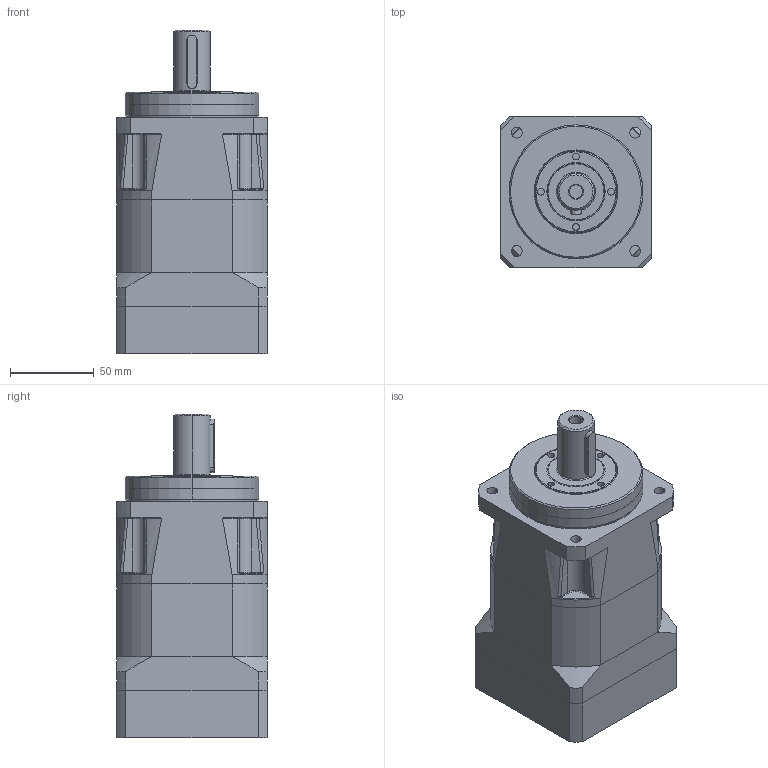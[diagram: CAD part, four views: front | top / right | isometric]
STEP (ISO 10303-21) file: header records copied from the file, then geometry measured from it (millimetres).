
FILE_DESCRIPTION((''),'2;1');
FILE_NAME('PS90-XXX-000-X2_ASM','2009-03-24T',('ata7311'),(''),'PRO/ENGINEER BY PARAMETRIC TECHNOLOGY CORPORATION, 2006300','PRO/ENGINEER BY PARAMETRIC TECHNOLOGY CORPORATION, 2006300','');
FILE_SCHEMA(('CONFIG_CONTROL_DESIGN'));
Products named in the file (15): 13325XXX; 13324000; HD202-0035; 10087124; 13320XXX_ASM; 13324001; 13329000; 13330XXX; 13120001; 12292000; M5X20; 13322XXX_ASM; 13134003; M5X25; PS90-XXX-000-X2_ASM
Assembly tree (18 placements, depth 3):
  PS90-XXX-000-X2_ASM
    13320XXX_ASM
      13325XXX
      13324000
      HD202-0035
      10087124
    13324001
    13322XXX_ASM
      13329000
      13330XXX
      13120001
      12292000  x2
      M5X20
    13134003
    M5X25  x4
Bounding box: 90 x 90 x 193.5 mm (x, y, z)
Volume: 649600.9 mm3; surface area: 171842.8 mm2
Topology: 16 solids, 16 shells, 536 faces, 1273 edges, 820 vertices
Faces by surface type: cylinder 237, plane 199, cone 52, torus 24, bspline 24
Entity records: 15867 total; most frequent: CARTESIAN_POINT 4389, DIRECTION 2483, ORIENTED_EDGE 2246, EDGE_CURVE 1123, AXIS2_PLACEMENT_3D 1008, VERTEX_POINT 722, EDGE_LOOP 553, CIRCLE 523
